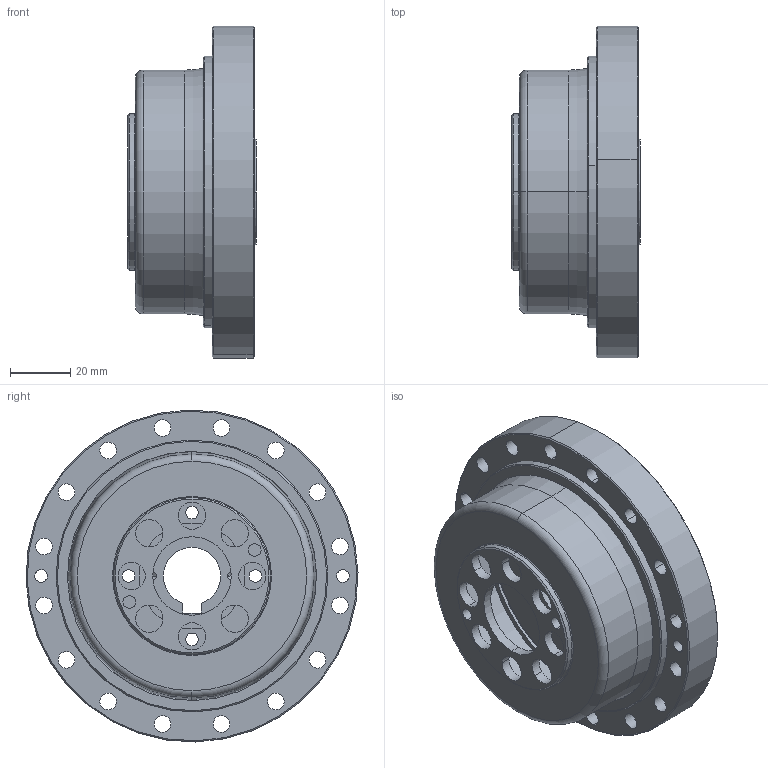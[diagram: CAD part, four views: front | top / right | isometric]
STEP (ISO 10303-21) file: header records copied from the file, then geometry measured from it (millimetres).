
FILE_DESCRIPTION (( 'STEP AP203' ), '1' );
FILE_NAME ('FCG-32-XXX-CJ.STEP', '2023-01-18T06:11:18', ( '微软用户' ), ( '微软中国' ), 'SwSTEP 2.0', 'SolidWorks 2016', '' );
FILE_SCHEMA (( 'CONFIG_CONTROL_DESIGN' ));
Length unit declared in the file: millimetre
Products named in the file (1): FCG-32-XXX-CJ
Bounding box: 42.7 x 109.97 x 109.97 mm (x, y, z)
Volume: 123885.5 mm3; surface area: 83629 mm2
Topology: 30 solids, 30 shells, 360 faces, 974 edges, 635 vertices
Faces by surface type: cylinder 190, plane 70, sphere 46, cone 32, torus 22
Entity records: 10894 total; most frequent: DIRECTION 2157, CARTESIAN_POINT 1782, ORIENTED_EDGE 1710, AXIS2_PLACEMENT_3D 941, EDGE_CURVE 855, CIRCLE 580, VERTEX_POINT 566, EDGE_LOOP 447
